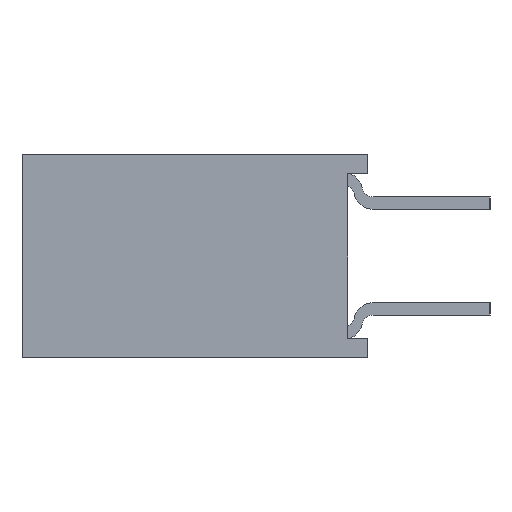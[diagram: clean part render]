
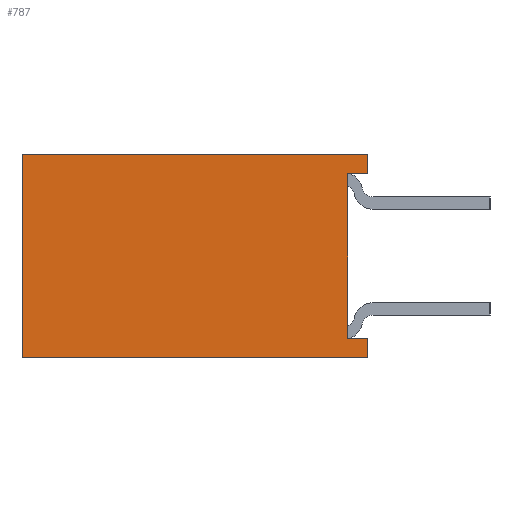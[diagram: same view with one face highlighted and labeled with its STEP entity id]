
A CAD part, left-side view. The second image highlights one B-rep face of the part: STEP entity #787.
In plain terms, the highlighted planar face has unit normal (-1, 0, 0).
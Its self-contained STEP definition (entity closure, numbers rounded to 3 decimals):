
#787=ADVANCED_FACE('',(#2371),#1647,.T.);
#1647=PLANE('',#16773);
#2371=FACE_OUTER_BOUND('',#3230,.T.);
#3230=EDGE_LOOP('',(#4272,#4273,#4274,#4275,#4276,#4277,#4278,#4279));
#4272=ORIENTED_EDGE('',*,*,#10456,.F.);
#4273=ORIENTED_EDGE('',*,*,#10457,.F.);
#4274=ORIENTED_EDGE('',*,*,#10458,.F.);
#4275=ORIENTED_EDGE('',*,*,#10371,.T.);
#4276=ORIENTED_EDGE('',*,*,#10459,.T.);
#4277=ORIENTED_EDGE('',*,*,#10460,.F.);
#4278=ORIENTED_EDGE('',*,*,#10461,.F.);
#4279=ORIENTED_EDGE('',*,*,#10377,.T.);
#8859=VERTEX_POINT('',#22366);
#8860=VERTEX_POINT('',#22368);
#8864=VERTEX_POINT('',#22378);
#8866=VERTEX_POINT('',#22381);
#8944=VERTEX_POINT('',#22541);
#8945=VERTEX_POINT('',#22543);
#8946=VERTEX_POINT('',#22546);
#8947=VERTEX_POINT('',#22548);
#10371=EDGE_CURVE('',#8860,#8859,#12707,.T.);
#10377=EDGE_CURVE('',#8866,#8864,#12713,.T.);
#10456=EDGE_CURVE('',#8944,#8864,#12792,.T.);
#10457=EDGE_CURVE('',#8945,#8944,#12793,.T.);
#10458=EDGE_CURVE('',#8860,#8945,#12794,.T.);
#10459=EDGE_CURVE('',#8859,#8946,#12795,.T.);
#10460=EDGE_CURVE('',#8947,#8946,#12796,.T.);
#10461=EDGE_CURVE('',#8866,#8947,#12797,.T.);
#12707=LINE('',#22367,#14771);
#12713=LINE('',#22380,#14777);
#12792=LINE('',#22540,#14856);
#12793=LINE('',#22542,#14857);
#12794=LINE('',#22544,#14858);
#12795=LINE('',#22545,#14859);
#12796=LINE('',#22547,#14860);
#12797=LINE('',#22549,#14861);
#14771=VECTOR('',#17970,1.);
#14777=VECTOR('',#17978,1.);
#14856=VECTOR('',#18063,1.);
#14857=VECTOR('',#18064,1.);
#14858=VECTOR('',#18065,1.);
#14859=VECTOR('',#18066,1.);
#14860=VECTOR('',#18067,1.);
#14861=VECTOR('',#18068,1.);
#16773=AXIS2_PLACEMENT_3D('',#22550,#18069,#18070);
#17970=DIRECTION('',(0.,0.,1.));
#17978=DIRECTION('',(0.,0.,1.));
#18063=DIRECTION('',(0.,-1.,0.));
#18064=DIRECTION('',(0.,0.,-1.));
#18065=DIRECTION('',(0.,1.,0.));
#18066=DIRECTION('',(0.,1.,0.));
#18067=DIRECTION('',(0.,0.,1.));
#18068=DIRECTION('',(0.,1.,0.));
#18069=DIRECTION('',(-1.,0.,0.));
#18070=DIRECTION('',(0.,0.,-1.));
#22366=CARTESIAN_POINT('',(-12.7,0.,0.));
#22367=CARTESIAN_POINT('',(-12.7,0.,2.801));
#22368=CARTESIAN_POINT('',(-12.7,0.,-0.48));
#22378=CARTESIAN_POINT('',(-12.7,0.,-4.52));
#22380=CARTESIAN_POINT('',(-12.7,0.,2.801));
#22381=CARTESIAN_POINT('',(-12.7,0.,-5.));
#22540=CARTESIAN_POINT('',(-12.7,0.,-4.52));
#22541=CARTESIAN_POINT('',(-12.7,0.5,-4.52));
#22542=CARTESIAN_POINT('',(-12.7,0.5,-2.5));
#22543=CARTESIAN_POINT('',(-12.7,0.5,-0.48));
#22544=CARTESIAN_POINT('',(-12.7,0.,-0.48));
#22545=CARTESIAN_POINT('',(-12.7,0.,0.));
#22546=CARTESIAN_POINT('',(-12.7,8.5,0.));
#22547=CARTESIAN_POINT('',(-12.7,8.5,-2.5));
#22548=CARTESIAN_POINT('',(-12.7,8.5,-5.));
#22549=CARTESIAN_POINT('',(-12.7,0.,-5.));
#22550=CARTESIAN_POINT('',(-12.7,0.,-5.));
